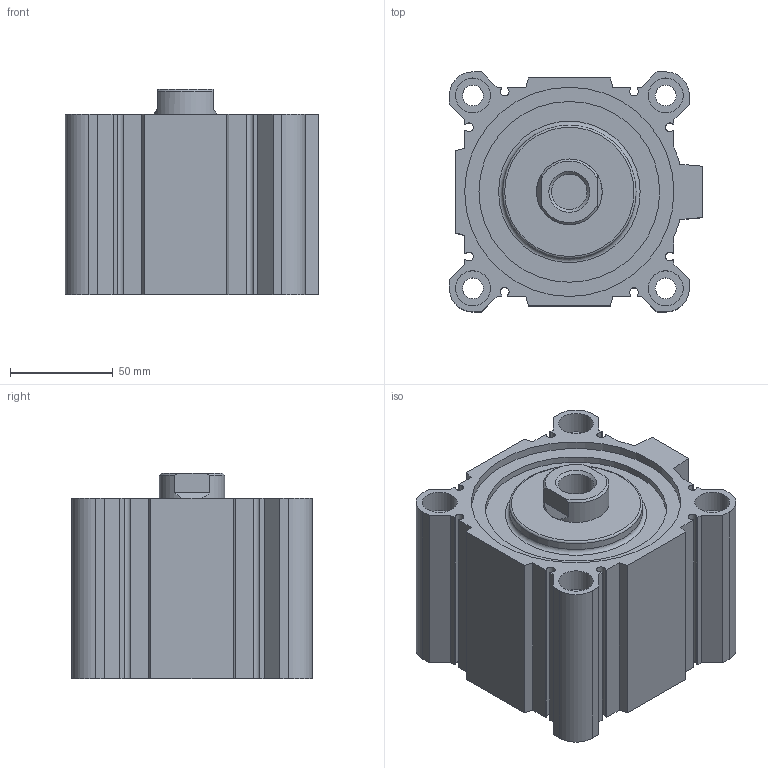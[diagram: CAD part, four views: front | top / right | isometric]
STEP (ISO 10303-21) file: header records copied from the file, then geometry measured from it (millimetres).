
FILE_DESCRIPTION( ( 'STEP AP214' ), '1' );
FILE_NAME( 'C:/Users/emc02044/Desktop/SQN SQN big size/SQN100X25-S.stp', '2026-07-29T04:00:45', ( 'License CC BY-ND 4.0' ), ( 'CADENAS' ), ' ', 'PARTsolutions', ' ' );
FILE_SCHEMA( ( 'AUTOMOTIVE_DESIGN { 1 0 10303 214 1 1 1 1 }' ) );
Length unit declared in the file: millimetre
Products named in the file (3): SQN100X25-S; _SQ100X25-S(0) ()_body; _SQ100X25-S(rod-0)
Assembly tree (2 placements, depth 2):
  SQN100X25-S
    _SQ100X25-S(0) ()_body
    _SQ100X25-S(rod-0)
Bounding box: 123.5 x 117 x 100 mm (x, y, z)
Volume: 773462.3 mm3; surface area: 159321.4 mm2
Topology: 2 solids, 2 shells, 153 faces, 356 edges, 235 vertices
Faces by surface type: plane 96, cylinder 47, cone 7, torus 3
Full cylindrical faces by diameter (mm): 10.106 x8, 10.9 x4, 14.95 x2, 17 x8, 17.294 x1, 32 x2, 65 x2, 88.1 x2, 100 x2, 102 x2
Entity records: 5436 total; most frequent: DIRECTION 728, CARTESIAN_POINT 714, ORIENTED_EDGE 626, EDGE_CURVE 313, AXIS2_PLACEMENT_3D 263, VERTEX_POINT 233, EDGE_LOOP 230, LINE 202
